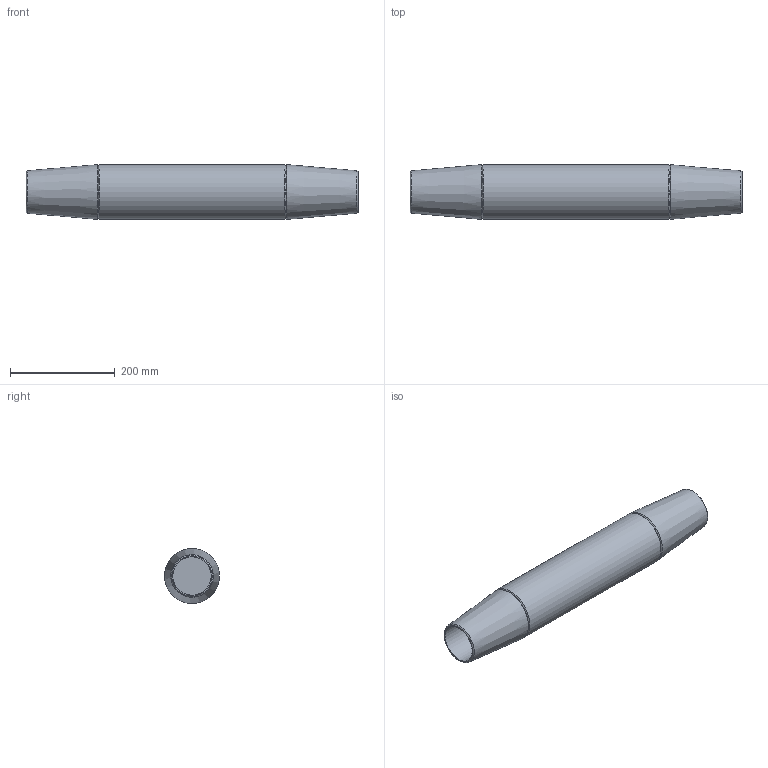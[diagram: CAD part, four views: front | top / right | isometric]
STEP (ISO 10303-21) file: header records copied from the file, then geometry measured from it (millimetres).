
FILE_DESCRIPTION(/* description */ (''),/* implementation_level */ '2;1');
FILE_NAME(/* name */ 'G:\Engineering\700 CAD\Internet-PX-1-step-igs-dxf\520-MUF-Arbeitsdateien\520-070-MUF.stp',/* time_stamp */ '2020-06-30T13:20:38+02:00',/* author */ ('schwarz'),/* organization */ (''),/* preprocessor_version */ 'ST-DEVELOPER v16.1',/* originating_system */ 'Autodesk Inventor 2016',/* authorisation */ '');
FILE_SCHEMA (('AUTOMOTIVE_DESIGN { 1 0 10303 214 3 1 1 }'));
Length unit declared in the file: centimetre
Products named in the file (1): Zusammenbau Muffe 520 070 Kunde
Bounding box: 634 x 105 x 105 mm (x, y, z)
Volume: 4116557.5 mm3; surface area: 256881.8 mm2
Topology: 1 solids, 1 shells, 15 faces, 27 edges, 16 vertices
Faces by surface type: cone 8, plane 4, cylinder 3
Full cylindrical faces by diameter (mm): 73 x2, 105 x1
Entity records: 347 total; most frequent: DIRECTION 60, CARTESIAN_POINT 44, AXIS2_PLACEMENT_3D 30, EDGE_LOOP 28, ORIENTED_EDGE 28, STYLED_ITEM 16, FACE_OUTER_BOUND 15, ADVANCED_FACE 15
